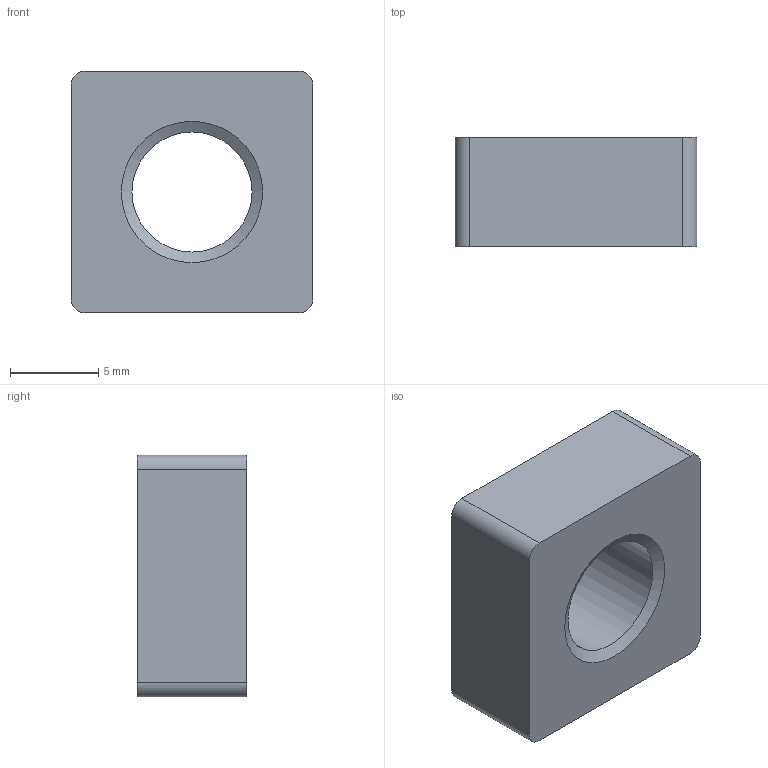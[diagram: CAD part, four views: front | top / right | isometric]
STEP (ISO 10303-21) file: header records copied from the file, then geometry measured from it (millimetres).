
FILE_DESCRIPTION(/* description */ (''),/* implementation_level */ '2;1');
FILE_NAME(/* name */ 'C:\Users\AMS43\Documents\Inventor\AMS\misumi\ナット_ipt\ナット_stp\NSM-08-8.ipt.stp',/* time_stamp */ '2016-10-06T11:42:42+09:00',/* author */ ('AMS43'),/* organization */ (''),/* preprocessor_version */ 'ST-DEVELOPER v15.2',/* originating_system */ 'Autodesk Inventor 2014',/* authorisation */ '');
FILE_SCHEMA (('AUTOMOTIVE_DESIGN { 1 0 10303 214 3 1 1 }'));
Length unit declared in the file: metre
Products named in the file (1): NSM-08-8
Bounding box: 13.7 x 6.2 x 13.7 mm (x, y, z)
Volume: 930.3 mm3; surface area: 754.7 mm2
Topology: 1 solids, 1 shells, 13 faces, 31 edges, 20 vertices
Faces by surface type: plane 6, cylinder 5, cone 2
Full cylindrical faces by diameter (mm): 6.8 x1
Entity records: 401 total; most frequent: DIRECTION 68, CARTESIAN_POINT 62, ORIENTED_EDGE 56, EDGE_CURVE 28, AXIS2_PLACEMENT_3D 26, VERTEX_POINT 20, EDGE_LOOP 18, LINE 16
